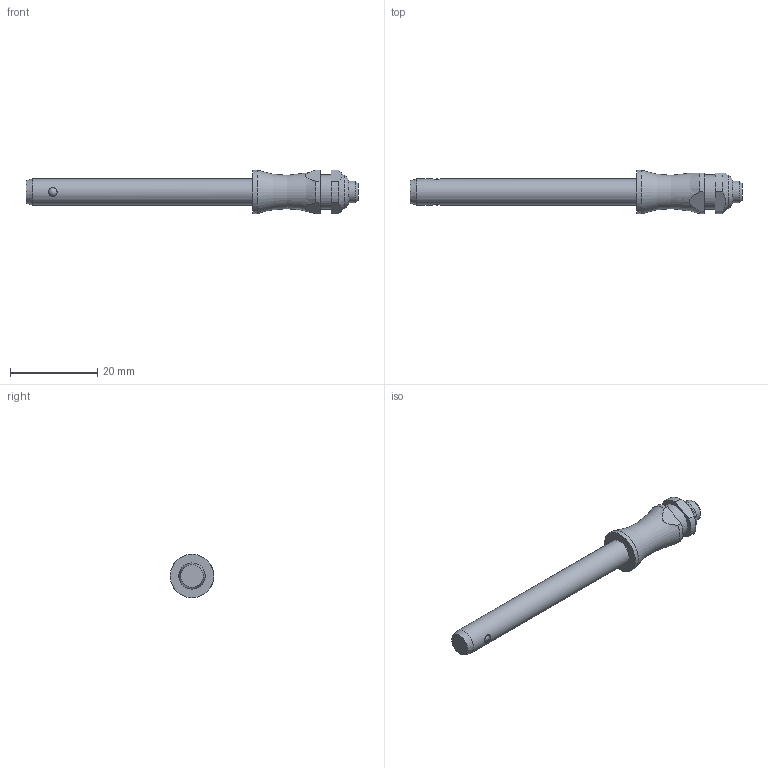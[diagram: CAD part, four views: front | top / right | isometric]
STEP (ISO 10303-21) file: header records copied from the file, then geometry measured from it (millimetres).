
FILE_DESCRIPTION( ( 'STEP AP203' ), '1' );
FILE_NAME( 'C:/Temp/Ganter_Step_05_03_2020/data/3_1/gn113_3/Stainless Steel-Ball lock pin GN 113.3-6-45 (activated).stp', '2020-03-12T08:18:19', ( 'License CC BY-ND 4.0' ), ( 'CADENAS' ), ' ', 'PARTsolutions', ' ' );
FILE_SCHEMA( ( 'CONFIG_CONTROL_DESIGN' ) );
Length unit declared in the file: millimetre
Products named in the file (1): _Stainless Steel-Ball lock pin GN 113.3-6-45 (activated)
Bounding box: 76.15 x 10 x 10 mm (x, y, z)
Volume: 2761.5 mm3; surface area: 1782 mm2
Topology: 1 solids, 1 shells, 31 faces, 73 edges, 46 vertices
Faces by surface type: plane 12, cylinder 12, cone 3, torus 2, sphere 2
Full cylindrical faces by diameter (mm): 2 x2, 5 x1, 6 x1, 7.9 x1, 10 x1
Entity records: 962 total; most frequent: CARTESIAN_POINT 298, DIRECTION 134, ORIENTED_EDGE 104, AXIS2_PLACEMENT_3D 58, EDGE_CURVE 52, EDGE_LOOP 48, VERTEX_POINT 40, FACE_OUTER_BOUND 39
